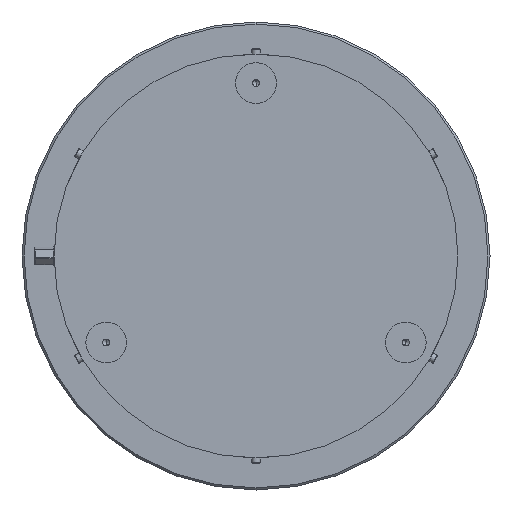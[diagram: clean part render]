
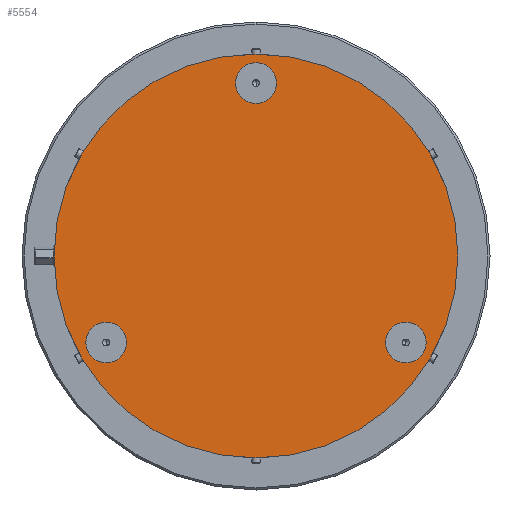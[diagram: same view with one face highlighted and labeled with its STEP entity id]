
A CAD part, front view. The second image highlights one B-rep face of the part: STEP entity #5554.
In plain terms, the highlighted planar face has unit normal (0, -1, 0).
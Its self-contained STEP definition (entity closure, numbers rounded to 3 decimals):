
#124 = DIRECTION ( 'NONE',  ( 0., 0., -1. ) ) ;
#235 = EDGE_CURVE ( 'NONE', #3191, #6709, #740, .T. ) ;
#303 = CARTESIAN_POINT ( 'NONE',  ( 147.224, 0., -85. ) ) ;
#305 = CARTESIAN_POINT ( 'NONE',  ( 0., 0., 198.5 ) ) ;
#338 = CIRCLE ( 'NONE', #2984, 20. ) ;
#356 = ORIENTED_EDGE ( 'NONE', *, *, #2925, .T. ) ;
#370 = CARTESIAN_POINT ( 'NONE',  ( -147.224, 0., -85. ) ) ;
#401 = DIRECTION ( 'NONE',  ( 0., 0., 1. ) ) ;
#424 = AXIS2_PLACEMENT_3D ( 'NONE', #3865, #712, #1235 ) ;
#584 = CIRCLE ( 'NONE', #2329, 198.5 ) ;
#633 = DIRECTION ( 'NONE',  ( 0., -1., 0. ) ) ;
#702 = AXIS2_PLACEMENT_3D ( 'NONE', #5363, #633, #3785 ) ;
#712 = DIRECTION ( 'NONE',  ( 0., 1., 0. ) ) ;
#740 = CIRCLE ( 'NONE', #702, 20. ) ;
#764 = VERTEX_POINT ( 'NONE', #2485 ) ;
#779 = DIRECTION ( 'NONE',  ( 0., -1., 0. ) ) ;
#802 = DIRECTION ( 'NONE',  ( 0., -1., 0. ) ) ;
#1022 = DIRECTION ( 'NONE',  ( 0., 0., 1. ) ) ;
#1056 = CARTESIAN_POINT ( 'NONE',  ( -147.224, 0., -65. ) ) ;
#1106 = ORIENTED_EDGE ( 'NONE', *, *, #4176, .F. ) ;
#1110 = DIRECTION ( 'NONE',  ( 0., 0., 1. ) ) ;
#1235 = DIRECTION ( 'NONE',  ( 0., 0., 1. ) ) ;
#1294 = PLANE ( 'NONE',  #424 ) ;
#1360 = DIRECTION ( 'NONE',  ( 0., -1., 0. ) ) ;
#1644 = CIRCLE ( 'NONE', #3672, 20. ) ;
#1787 = CIRCLE ( 'NONE', #6556, 198.5 ) ;
#1826 = DIRECTION ( 'NONE',  ( 0., 0., 1. ) ) ;
#1867 = VERTEX_POINT ( 'NONE', #1972 ) ;
#1888 = CARTESIAN_POINT ( 'NONE',  ( 0., 0., 0. ) ) ;
#1972 = CARTESIAN_POINT ( 'NONE',  ( 147.224, 0., -65. ) ) ;
#1981 = CARTESIAN_POINT ( 'NONE',  ( 147.224, 0., -85. ) ) ;
#2120 = EDGE_CURVE ( 'NONE', #1867, #764, #1644, .T. ) ;
#2299 = ORIENTED_EDGE ( 'NONE', *, *, #5250, .F. ) ;
#2329 = AXIS2_PLACEMENT_3D ( 'NONE', #1888, #802, #2385 ) ;
#2373 = DIRECTION ( 'NONE',  ( 0., 0., 1. ) ) ;
#2385 = DIRECTION ( 'NONE',  ( 0., 0., -1. ) ) ;
#2400 = EDGE_LOOP ( 'NONE', ( #2299, #3960 ) ) ;
#2449 = FACE_OUTER_BOUND ( 'NONE', #3162, .T. ) ;
#2485 = CARTESIAN_POINT ( 'NONE',  ( 147.224, 0., -105. ) ) ;
#2623 = FACE_BOUND ( 'NONE', #2400, .T. ) ;
#2807 = CIRCLE ( 'NONE', #3775, 20. ) ;
#2925 = EDGE_CURVE ( 'NONE', #3609, #3079, #584, .T. ) ;
#2959 = VERTEX_POINT ( 'NONE', #3890 ) ;
#2984 = AXIS2_PLACEMENT_3D ( 'NONE', #5557, #779, #1826 ) ;
#3079 = VERTEX_POINT ( 'NONE', #305 ) ;
#3135 = CARTESIAN_POINT ( 'NONE',  ( 0., 0., 170. ) ) ;
#3162 = EDGE_LOOP ( 'NONE', ( #356, #4264 ) ) ;
#3191 = VERTEX_POINT ( 'NONE', #4525 ) ;
#3609 = VERTEX_POINT ( 'NONE', #6045 ) ;
#3672 = AXIS2_PLACEMENT_3D ( 'NONE', #303, #1360, #2373 ) ;
#3775 = AXIS2_PLACEMENT_3D ( 'NONE', #370, #4676, #1022 ) ;
#3785 = DIRECTION ( 'NONE',  ( 0., 0., 1. ) ) ;
#3800 = CARTESIAN_POINT ( 'NONE',  ( 0., 0., 0. ) ) ;
#3825 = EDGE_CURVE ( 'NONE', #764, #1867, #6208, .T. ) ;
#3829 = VERTEX_POINT ( 'NONE', #4651 ) ;
#3865 = CARTESIAN_POINT ( 'NONE',  ( 0., 0., 0. ) ) ;
#3890 = CARTESIAN_POINT ( 'NONE',  ( 0., 0., 150. ) ) ;
#3960 = ORIENTED_EDGE ( 'NONE', *, *, #235, .F. ) ;
#4004 = ORIENTED_EDGE ( 'NONE', *, *, #2120, .F. ) ;
#4176 = EDGE_CURVE ( 'NONE', #2959, #3829, #338, .T. ) ;
#4264 = ORIENTED_EDGE ( 'NONE', *, *, #6740, .T. ) ;
#4296 = DIRECTION ( 'NONE',  ( 0., -1., 0. ) ) ;
#4525 = CARTESIAN_POINT ( 'NONE',  ( -147.224, 0., -105. ) ) ;
#4536 = ORIENTED_EDGE ( 'NONE', *, *, #5721, .F. ) ;
#4651 = CARTESIAN_POINT ( 'NONE',  ( 0., 0., 190. ) ) ;
#4676 = DIRECTION ( 'NONE',  ( 0., -1., 0. ) ) ;
#4816 = AXIS2_PLACEMENT_3D ( 'NONE', #1981, #6725, #401 ) ;
#5087 = EDGE_LOOP ( 'NONE', ( #4536, #1106 ) ) ;
#5192 = EDGE_LOOP ( 'NONE', ( #4004, #5279 ) ) ;
#5250 = EDGE_CURVE ( 'NONE', #6709, #3191, #2807, .T. ) ;
#5279 = ORIENTED_EDGE ( 'NONE', *, *, #3825, .F. ) ;
#5363 = CARTESIAN_POINT ( 'NONE',  ( -147.224, 0., -85. ) ) ;
#5554 = ADVANCED_FACE ( 'NONE', ( #6022, #2623, #6163, #2449 ), #1294, .F. ) ;
#5557 = CARTESIAN_POINT ( 'NONE',  ( 0., 0., 170. ) ) ;
#5721 = EDGE_CURVE ( 'NONE', #3829, #2959, #6776, .T. ) ;
#5869 = DIRECTION ( 'NONE',  ( 0., -1., 0. ) ) ;
#5977 = AXIS2_PLACEMENT_3D ( 'NONE', #3135, #4296, #1110 ) ;
#6022 = FACE_BOUND ( 'NONE', #5192, .T. ) ;
#6045 = CARTESIAN_POINT ( 'NONE',  ( 0., 0., -198.5 ) ) ;
#6163 = FACE_BOUND ( 'NONE', #5087, .T. ) ;
#6208 = CIRCLE ( 'NONE', #4816, 20. ) ;
#6556 = AXIS2_PLACEMENT_3D ( 'NONE', #3800, #5869, #124 ) ;
#6709 = VERTEX_POINT ( 'NONE', #1056 ) ;
#6725 = DIRECTION ( 'NONE',  ( 0., -1., 0. ) ) ;
#6740 = EDGE_CURVE ( 'NONE', #3079, #3609, #1787, .T. ) ;
#6776 = CIRCLE ( 'NONE', #5977, 20. ) ;
